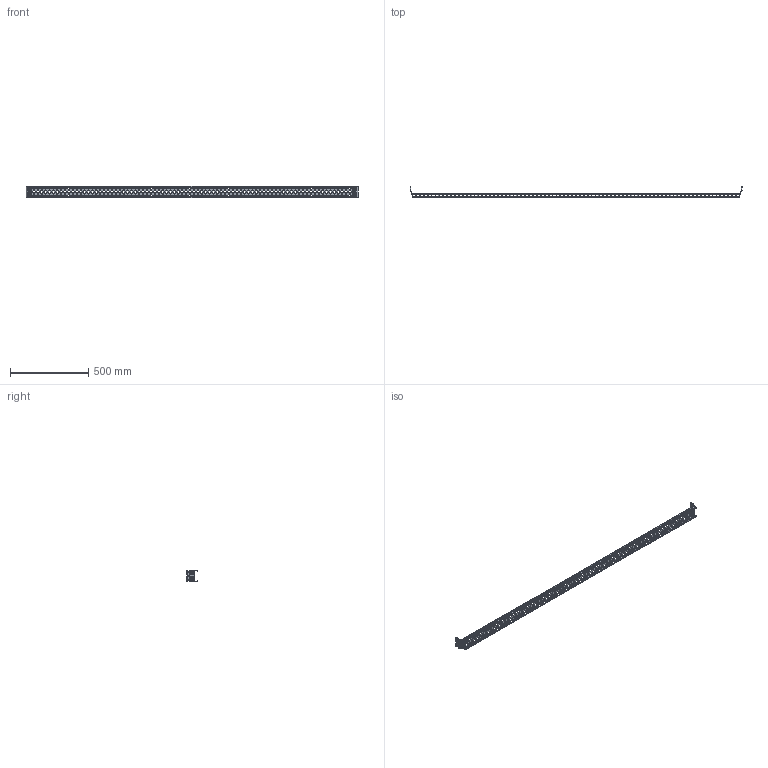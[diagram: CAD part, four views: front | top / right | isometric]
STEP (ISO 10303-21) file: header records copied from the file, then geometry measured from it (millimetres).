
FILE_DESCRIPTION (( 'STEP AP203' ), '1' );
FILE_NAME ('90700.step', '2013-04-03T09:47:10', ( '' ), ( '' ), 'SwSTEP 2.0', 'SolidWorks 2010', '' );
FILE_SCHEMA (( 'CONFIG_CONTROL_DESIGN' ));
Products named in the file (4): 90700; 35127279; 11158877_FLEXIBLE; 60127044
Assembly tree (4 placements, depth 3):
  90700
    35127279
    11158877_FLEXIBLE
      60127044  x2
Bounding box: 2126.34 x 68.58 x 75.01 mm (x, y, z)
Volume: 391214.3 mm3; surface area: 487190.2 mm2
Topology: 3 solids, 3 shells, 3110 faces, 9126 edges, 6028 vertices
Faces by surface type: plane 1824, cylinder 1254, torus 24, cone 8
Entity records: 104868 total; most frequent: CARTESIAN_POINT 17767, ORIENTED_EDGE 17752, DIRECTION 17354, EDGE_CURVE 8876, LINE 6412, VECTOR 6412, VERTEX_POINT 5884, AXIS2_PLACEMENT_3D 5471
